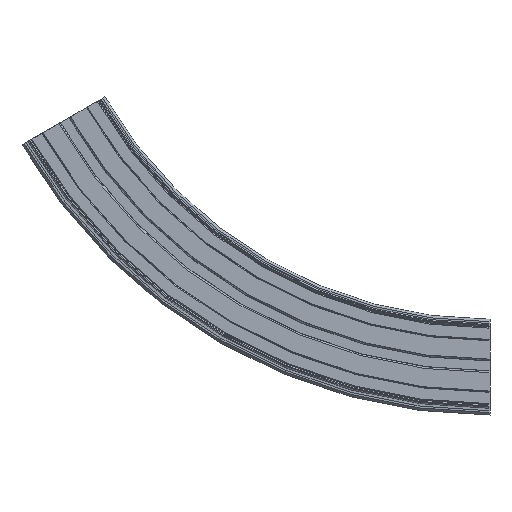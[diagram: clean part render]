
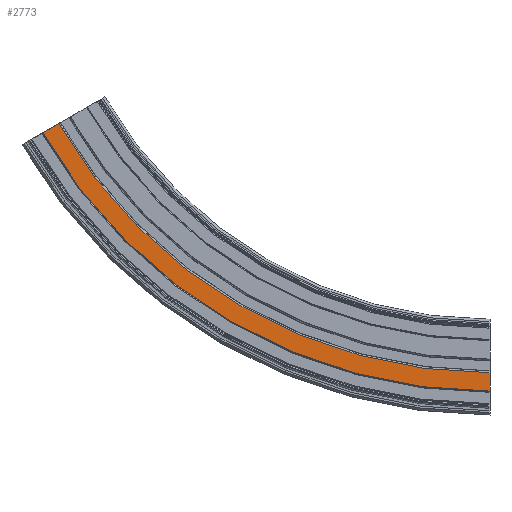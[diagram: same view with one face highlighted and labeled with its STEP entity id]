
A CAD part, left-side view. The second image highlights one B-rep face of the part: STEP entity #2773.
In plain terms, the highlighted planar face has unit normal (-1, 0, 0).
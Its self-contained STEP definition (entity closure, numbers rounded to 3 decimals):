
#267=CIRCLE('',#3020,405.5);
#268=CIRCLE('',#3022,420.5);
#442=FACE_OUTER_BOUND('',#596,.T.);
#596=EDGE_LOOP('',(#2171,#2172,#2173,#2174));
#773=LINE('',#9166,#979);
#774=LINE('',#9168,#980);
#979=VECTOR('',#3622,10.);
#980=VECTOR('',#3623,10.);
#1235=VERTEX_POINT('',#9159);
#1236=VERTEX_POINT('',#9161);
#1237=VERTEX_POINT('',#9165);
#1238=VERTEX_POINT('',#9167);
#1602=EDGE_CURVE('',#1235,#1236,#267,.T.);
#1603=EDGE_CURVE('',#1237,#1235,#773,.T.);
#1604=EDGE_CURVE('',#1238,#1236,#774,.T.);
#1605=EDGE_CURVE('',#1237,#1238,#268,.T.);
#2171=ORIENTED_EDGE('',*,*,#1603,.T.);
#2172=ORIENTED_EDGE('',*,*,#1602,.T.);
#2173=ORIENTED_EDGE('',*,*,#1604,.F.);
#2174=ORIENTED_EDGE('',*,*,#1605,.F.);
#2663=PLANE('',#3021);
#2773=ADVANCED_FACE('',(#442),#2663,.T.);
#3020=AXIS2_PLACEMENT_3D('',#9163,#3618,#3619);
#3021=AXIS2_PLACEMENT_3D('',#9164,#3620,#3621);
#3022=AXIS2_PLACEMENT_3D('',#9169,#3624,#3625);
#3618=DIRECTION('center_axis',(1.,0.,0.));
#3619=DIRECTION('ref_axis',(0.,0.,
-1.));
#3620=DIRECTION('center_axis',(-1.,0.,0.));
#3621=DIRECTION('ref_axis',(0.,0.,1.));
#3622=DIRECTION('',(0.,0.,1.));
#3623=DIRECTION('',(0.,-0.866,0.5));
#3624=DIRECTION('center_axis',(1.,0.,0.));
#3625=DIRECTION('ref_axis',(0.,0.,
-1.));
#9159=CARTESIAN_POINT('',(-32.,0.,-5.5));
#9161=CARTESIAN_POINT('',(-32.,351.173,197.25));
#9163=CARTESIAN_POINT('Origin',(-32.,0.,400.));
#9164=CARTESIAN_POINT('Origin',(-32.,0.,-20.5));
#9165=CARTESIAN_POINT('',(-32.,0.,-20.5));
#9166=CARTESIAN_POINT('',(-32.,0.,-20.5));
#9167=CARTESIAN_POINT('',(-32.,364.164,189.75));
#9168=CARTESIAN_POINT('',(-32.,364.164,189.75));
#9169=CARTESIAN_POINT('Origin',(-32.,0.,400.));
